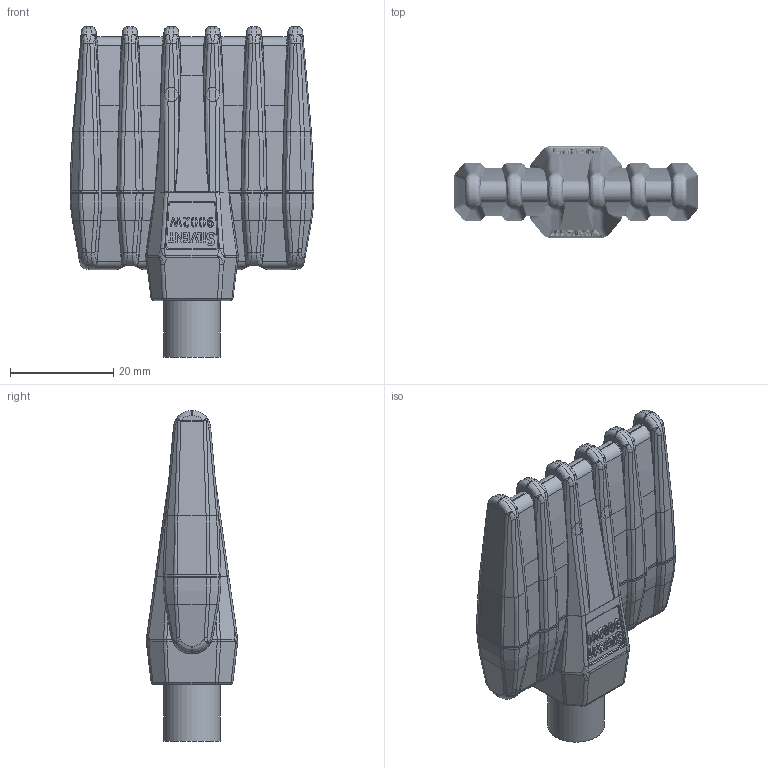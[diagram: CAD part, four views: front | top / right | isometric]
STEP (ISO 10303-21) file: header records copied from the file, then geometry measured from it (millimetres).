
FILE_DESCRIPTION (( 'STEP AP214' ), '1' );
FILE_NAME ('Silvent 9002W.STEP', '2012-11-19T14:03:30', ( 'silvrati' ), ( '' ), 'SwSTEP 2.0', 'SolidWorks 2011', '' );
FILE_SCHEMA (( 'AUTOMOTIVE_DESIGN' ));
Length unit declared in the file: millimetre
Products named in the file (4): 90000000542_MC6S 12.9 Svart st嶚 M2.5x30; 69218_Dummy; 69217_Dumie; Silvent 9002W
Assembly tree (4 placements, depth 2):
  Silvent 9002W
    69218_Dummy
    90000000542_MC6S 12.9 Svart st嶚 M2.5x30  x2
    69217_Dumie
Bounding box: 47.21 x 17.73 x 64 mm (x, y, z)
Volume: 18310.1 mm3; surface area: 12596.1 mm2
Topology: 4 solids, 4 shells, 1821 faces, 4458 edges, 2676 vertices
Faces by surface type: bspline 666, plane 627, cylinder 426, cone 68, sphere 24, torus 10
Full cylindrical faces by diameter (mm): 2.5 x2, 3.2 x5, 4.5 x2, 11.017 x1
Entity records: 77427 total; most frequent: CARTESIAN_POINT 41876, ORIENTED_EDGE 8680, DIRECTION 5476, EDGE_CURVE 4340, VERTEX_POINT 2625, EDGE_LOOP 1863, AXIS2_PLACEMENT_3D 1858, FACE_OUTER_BOUND 1802
